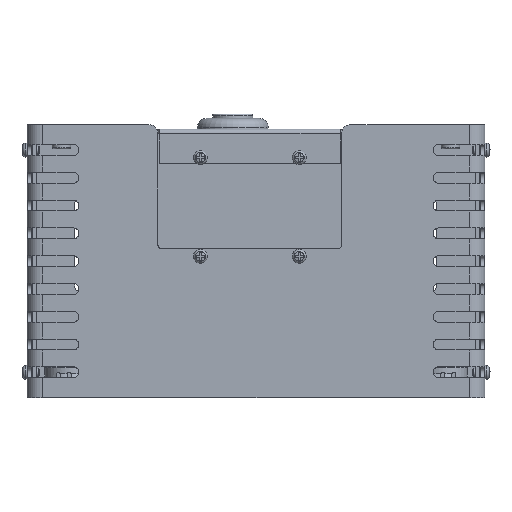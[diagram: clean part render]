
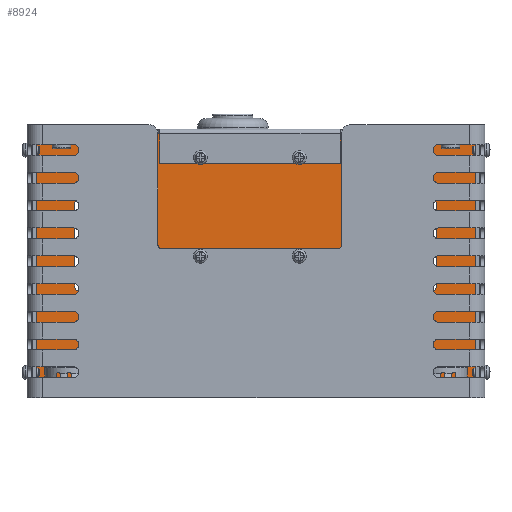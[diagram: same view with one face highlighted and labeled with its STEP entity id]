
A CAD part, top view. The second image highlights one B-rep face of the part: STEP entity #8924.
In plain terms, the highlighted planar face has unit normal (0, 0, 1).
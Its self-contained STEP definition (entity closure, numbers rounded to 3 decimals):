
#287=FACE_BOUND('',#1035,.T.);
#288=FACE_BOUND('',#1036,.T.);
#289=FACE_BOUND('',#1037,.T.);
#290=FACE_BOUND('',#1038,.T.);
#291=FACE_BOUND('',#1039,.T.);
#292=FACE_BOUND('',#1040,.T.);
#293=FACE_BOUND('',#1041,.T.);
#294=FACE_BOUND('',#1042,.T.);
#295=FACE_BOUND('',#1043,.T.);
#296=FACE_BOUND('',#1044,.T.);
#556=FACE_OUTER_BOUND('',#1034,.T.);
#1034=EDGE_LOOP('',(#6019,#6020,#6021,#6022,#6023,#6024,#6025,#6026,#6027,
#6028,#6029,#6030,#6031,#6032,#6033,#6034));
#1035=EDGE_LOOP('',(#6035));
#1036=EDGE_LOOP('',(#6036));
#1037=EDGE_LOOP('',(#6037));
#1038=EDGE_LOOP('',(#6038));
#1039=EDGE_LOOP('',(#6039));
#1040=EDGE_LOOP('',(#6040));
#1041=EDGE_LOOP('',(#6041));
#1042=EDGE_LOOP('',(#6042));
#1043=EDGE_LOOP('',(#6043,#6044,#6045,#6046));
#1044=EDGE_LOOP('',(#6047,#6048,#6049,#6050));
#1578=LINE('',#13209,#2438);
#1579=LINE('',#13212,#2439);
#1583=LINE('',#13227,#2443);
#1586=LINE('',#13233,#2446);
#1591=LINE('',#13246,#2451);
#1592=LINE('',#13249,#2452);
#1596=LINE('',#13264,#2456);
#1621=LINE('',#13329,#2481);
#1622=LINE('',#13331,#2482);
#1623=LINE('',#13332,#2483);
#1624=LINE('',#13334,#2484);
#1625=LINE('',#13335,#2485);
#1626=LINE('',#13337,#2486);
#1627=LINE('',#13338,#2487);
#1628=LINE('',#13340,#2488);
#1629=LINE('',#13341,#2489);
#1630=LINE('',#13360,#2490);
#1631=LINE('',#13364,#2491);
#1632=LINE('',#13368,#2492);
#1633=LINE('',#13372,#2493);
#2438=VECTOR('',#10455,10.);
#2439=VECTOR('',#10458,10.);
#2443=VECTOR('',#10470,10.);
#2446=VECTOR('',#10475,10.);
#2451=VECTOR('',#10486,10.);
#2452=VECTOR('',#10489,10.);
#2456=VECTOR('',#10501,10.);
#2481=VECTOR('',#10558,10.);
#2482=VECTOR('',#10559,10.);
#2483=VECTOR('',#10560,10.);
#2484=VECTOR('',#10561,10.);
#2485=VECTOR('',#10562,10.);
#2486=VECTOR('',#10563,10.);
#2487=VECTOR('',#10564,10.);
#2488=VECTOR('',#10565,10.);
#2489=VECTOR('',#10566,10.);
#2490=VECTOR('',#10583,10.);
#2491=VECTOR('',#10586,10.);
#2492=VECTOR('',#10589,10.);
#2493=VECTOR('',#10592,10.);
#3309=CIRCLE('',#9529,1.088);
#3310=CIRCLE('',#9530,1.088);
#3311=CIRCLE('',#9531,1.088);
#3312=CIRCLE('',#9532,1.088);
#3313=CIRCLE('',#9533,1.4);
#3314=CIRCLE('',#9534,1.4);
#3315=CIRCLE('',#9535,1.4);
#3316=CIRCLE('',#9536,1.4);
#3317=CIRCLE('',#9537,1.75);
#3318=CIRCLE('',#9538,1.75);
#3319=CIRCLE('',#9539,1.75);
#3320=CIRCLE('',#9540,1.75);
#3737=VERTEX_POINT('',#13199);
#3740=VERTEX_POINT('',#13207);
#3741=VERTEX_POINT('',#13211);
#3746=VERTEX_POINT('',#13223);
#3748=VERTEX_POINT('',#13226);
#3750=VERTEX_POINT('',#13232);
#3753=VERTEX_POINT('',#13240);
#3755=VERTEX_POINT('',#13244);
#3756=VERTEX_POINT('',#13248);
#3761=VERTEX_POINT('',#13260);
#3763=VERTEX_POINT('',#13263);
#3787=VERTEX_POINT('',#13328);
#3788=VERTEX_POINT('',#13330);
#3789=VERTEX_POINT('',#13333);
#3790=VERTEX_POINT('',#13336);
#3791=VERTEX_POINT('',#13339);
#3792=VERTEX_POINT('',#13342);
#3793=VERTEX_POINT('',#13344);
#3794=VERTEX_POINT('',#13346);
#3795=VERTEX_POINT('',#13348);
#3796=VERTEX_POINT('',#13350);
#3797=VERTEX_POINT('',#13352);
#3798=VERTEX_POINT('',#13354);
#3799=VERTEX_POINT('',#13356);
#3800=VERTEX_POINT('',#13358);
#3801=VERTEX_POINT('',#13359);
#3802=VERTEX_POINT('',#13361);
#3803=VERTEX_POINT('',#13363);
#3804=VERTEX_POINT('',#13366);
#3805=VERTEX_POINT('',#13367);
#3806=VERTEX_POINT('',#13369);
#3807=VERTEX_POINT('',#13371);
#4600=EDGE_CURVE('',#3740,#3737,#1578,.T.);
#4601=EDGE_CURVE('',#3737,#3741,#1579,.T.);
#4608=EDGE_CURVE('',#3746,#3748,#1583,.T.);
#4611=EDGE_CURVE('',#3750,#3746,#1586,.T.);
#4618=EDGE_CURVE('',#3753,#3755,#1591,.T.);
#4619=EDGE_CURVE('',#3753,#3756,#1592,.T.);
#4626=EDGE_CURVE('',#3761,#3763,#1596,.T.);
#4657=EDGE_CURVE('',#3787,#3755,#1621,.T.);
#4658=EDGE_CURVE('',#3787,#3788,#1622,.T.);
#4659=EDGE_CURVE('',#3748,#3788,#1623,.T.);
#4660=EDGE_CURVE('',#3789,#3750,#1624,.T.);
#4661=EDGE_CURVE('',#3789,#3741,#1625,.T.);
#4662=EDGE_CURVE('',#3740,#3790,#1626,.T.);
#4663=EDGE_CURVE('',#3763,#3790,#1627,.T.);
#4664=EDGE_CURVE('',#3791,#3761,#1628,.T.);
#4665=EDGE_CURVE('',#3791,#3756,#1629,.T.);
#4666=EDGE_CURVE('',#3792,#3792,#3309,.T.);
#4667=EDGE_CURVE('',#3793,#3793,#3310,.T.);
#4668=EDGE_CURVE('',#3794,#3794,#3311,.T.);
#4669=EDGE_CURVE('',#3795,#3795,#3312,.T.);
#4670=EDGE_CURVE('',#3796,#3796,#3313,.T.);
#4671=EDGE_CURVE('',#3797,#3797,#3314,.T.);
#4672=EDGE_CURVE('',#3798,#3798,#3315,.T.);
#4673=EDGE_CURVE('',#3799,#3799,#3316,.T.);
#4674=EDGE_CURVE('',#3800,#3801,#1630,.T.);
#4675=EDGE_CURVE('',#3801,#3802,#3317,.T.);
#4676=EDGE_CURVE('',#3802,#3803,#1631,.T.);
#4677=EDGE_CURVE('',#3803,#3800,#3318,.T.);
#4678=EDGE_CURVE('',#3804,#3805,#1632,.T.);
#4679=EDGE_CURVE('',#3805,#3806,#3319,.T.);
#4680=EDGE_CURVE('',#3806,#3807,#1633,.T.);
#4681=EDGE_CURVE('',#3807,#3804,#3320,.T.);
#6019=ORIENTED_EDGE('',*,*,#4619,.F.);
#6020=ORIENTED_EDGE('',*,*,#4618,.T.);
#6021=ORIENTED_EDGE('',*,*,#4657,.F.);
#6022=ORIENTED_EDGE('',*,*,#4658,.T.);
#6023=ORIENTED_EDGE('',*,*,#4659,.F.);
#6024=ORIENTED_EDGE('',*,*,#4608,.F.);
#6025=ORIENTED_EDGE('',*,*,#4611,.F.);
#6026=ORIENTED_EDGE('',*,*,#4660,.F.);
#6027=ORIENTED_EDGE('',*,*,#4661,.T.);
#6028=ORIENTED_EDGE('',*,*,#4601,.F.);
#6029=ORIENTED_EDGE('',*,*,#4600,.F.);
#6030=ORIENTED_EDGE('',*,*,#4662,.T.);
#6031=ORIENTED_EDGE('',*,*,#4663,.F.);
#6032=ORIENTED_EDGE('',*,*,#4626,.F.);
#6033=ORIENTED_EDGE('',*,*,#4664,.F.);
#6034=ORIENTED_EDGE('',*,*,#4665,.T.);
#6035=ORIENTED_EDGE('',*,*,#4666,.T.);
#6036=ORIENTED_EDGE('',*,*,#4667,.T.);
#6037=ORIENTED_EDGE('',*,*,#4668,.T.);
#6038=ORIENTED_EDGE('',*,*,#4669,.T.);
#6039=ORIENTED_EDGE('',*,*,#4670,.T.);
#6040=ORIENTED_EDGE('',*,*,#4671,.T.);
#6041=ORIENTED_EDGE('',*,*,#4672,.T.);
#6042=ORIENTED_EDGE('',*,*,#4673,.T.);
#6043=ORIENTED_EDGE('',*,*,#4674,.T.);
#6044=ORIENTED_EDGE('',*,*,#4675,.T.);
#6045=ORIENTED_EDGE('',*,*,#4676,.T.);
#6046=ORIENTED_EDGE('',*,*,#4677,.T.);
#6047=ORIENTED_EDGE('',*,*,#4678,.T.);
#6048=ORIENTED_EDGE('',*,*,#4679,.T.);
#6049=ORIENTED_EDGE('',*,*,#4680,.T.);
#6050=ORIENTED_EDGE('',*,*,#4681,.T.);
#8660=PLANE('',#9528);
#8924=ADVANCED_FACE('',(#556,#287,#288,#289,#290,#291,#292,#293,#294,#295,
#296),#8660,.T.);
#9528=AXIS2_PLACEMENT_3D('',#13327,#10556,#10557);
#9529=AXIS2_PLACEMENT_3D('',#13343,#10567,#10568);
#9530=AXIS2_PLACEMENT_3D('',#13345,#10569,#10570);
#9531=AXIS2_PLACEMENT_3D('',#13347,#10571,#10572);
#9532=AXIS2_PLACEMENT_3D('',#13349,#10573,#10574);
#9533=AXIS2_PLACEMENT_3D('',#13351,#10575,#10576);
#9534=AXIS2_PLACEMENT_3D('',#13353,#10577,#10578);
#9535=AXIS2_PLACEMENT_3D('',#13355,#10579,#10580);
#9536=AXIS2_PLACEMENT_3D('',#13357,#10581,#10582);
#9537=AXIS2_PLACEMENT_3D('',#13362,#10584,#10585);
#9538=AXIS2_PLACEMENT_3D('',#13365,#10587,#10588);
#9539=AXIS2_PLACEMENT_3D('',#13370,#10590,#10591);
#9540=AXIS2_PLACEMENT_3D('',#13373,#10593,#10594);
#10455=DIRECTION('',(0.,1.,0.));
#10458=DIRECTION('',(1.,0.,0.));
#10470=DIRECTION('',(-1.,0.,0.));
#10475=DIRECTION('',(0.,-1.,0.));
#10486=DIRECTION('',(1.,0.,0.));
#10489=DIRECTION('',(-1.,0.,0.));
#10501=DIRECTION('',(1.,0.,0.));
#10556=DIRECTION('center_axis',(0.,0.,1.));
#10557=DIRECTION('ref_axis',(1.,0.,0.));
#10558=DIRECTION('',(0.,-1.,0.));
#10559=DIRECTION('',(-1.,0.,0.));
#10560=DIRECTION('',(0.,1.,0.));
#10561=DIRECTION('',(-1.,0.,0.));
#10562=DIRECTION('',(0.,-1.,0.));
#10563=DIRECTION('',(1.,0.,0.));
#10564=DIRECTION('',(0.,-1.,0.));
#10565=DIRECTION('',(1.,0.,0.));
#10566=DIRECTION('',(0.,1.,0.));
#10567=DIRECTION('center_axis',(0.,0.,-1.));
#10568=DIRECTION('ref_axis',(-1.,0.,0.));
#10569=DIRECTION('center_axis',(0.,0.,-1.));
#10570=DIRECTION('ref_axis',(-1.,0.,0.));
#10571=DIRECTION('center_axis',(0.,0.,-1.));
#10572=DIRECTION('ref_axis',(-1.,0.,0.));
#10573=DIRECTION('center_axis',(0.,0.,-1.));
#10574=DIRECTION('ref_axis',(-1.,0.,0.));
#10575=DIRECTION('center_axis',(0.,0.,-1.));
#10576=DIRECTION('ref_axis',(-1.,0.,0.));
#10577=DIRECTION('center_axis',(0.,0.,-1.));
#10578=DIRECTION('ref_axis',(-1.,0.,0.));
#10579=DIRECTION('center_axis',(0.,0.,-1.));
#10580=DIRECTION('ref_axis',(-1.,0.,0.));
#10581=DIRECTION('center_axis',(0.,0.,-1.));
#10582=DIRECTION('ref_axis',(-1.,0.,0.));
#10583=DIRECTION('',(0.,1.,0.));
#10584=DIRECTION('center_axis',(0.,0.,-1.));
#10585=DIRECTION('ref_axis',(1.,0.,0.));
#10586=DIRECTION('',(0.,-1.,0.));
#10587=DIRECTION('center_axis',(0.,0.,-1.));
#10588=DIRECTION('ref_axis',(-1.,0.,0.));
#10589=DIRECTION('',(0.,1.,0.));
#10590=DIRECTION('center_axis',(0.,0.,-1.));
#10591=DIRECTION('ref_axis',(1.,0.,0.));
#10592=DIRECTION('',(0.,-1.,0.));
#10593=DIRECTION('center_axis',(0.,0.,-1.));
#10594=DIRECTION('ref_axis',(-1.,0.,0.));
#13199=CARTESIAN_POINT('',(-72.5,-39.25,1.5));
#13207=CARTESIAN_POINT('',(-72.5,-40.74,1.5));
#13209=CARTESIAN_POINT('',(-72.5,-19.625,1.5));
#13211=CARTESIAN_POINT('',(-70.99,-39.25,1.5));
#13212=CARTESIAN_POINT('',(-70.622,-39.25,1.5));
#13223=CARTESIAN_POINT('',(-72.5,40.24,1.5));
#13226=CARTESIAN_POINT('',(-72.5,40.24,1.5));
#13227=CARTESIAN_POINT('',(-69.5,40.24,1.5));
#13232=CARTESIAN_POINT('',(-72.5,40.25,1.5));
#13233=CARTESIAN_POINT('',(-72.5,0.,1.5));
#13240=CARTESIAN_POINT('',(72.5,40.25,1.5));
#13244=CARTESIAN_POINT('',(72.5,40.25,1.5));
#13246=CARTESIAN_POINT('',(69.5,40.25,1.5));
#13248=CARTESIAN_POINT('',(70.99,40.25,1.5));
#13249=CARTESIAN_POINT('',(70.623,40.25,1.5));
#13260=CARTESIAN_POINT('',(72.5,-39.25,1.5));
#13263=CARTESIAN_POINT('',(72.5,-39.25,1.5));
#13264=CARTESIAN_POINT('',(69.5,-39.25,1.5));
#13327=CARTESIAN_POINT('Origin',(0.,0.,1.5));
#13328=CARTESIAN_POINT('',(72.5,41.74,1.5));
#13329=CARTESIAN_POINT('',(72.5,40.25,1.5));
#13330=CARTESIAN_POINT('',(-72.5,41.74,1.5));
#13331=CARTESIAN_POINT('',(-70.99,41.74,1.5));
#13332=CARTESIAN_POINT('',(-72.5,20.87,1.5));
#13333=CARTESIAN_POINT('',(-70.99,40.25,1.5));
#13334=CARTESIAN_POINT('',(-70.623,40.25,1.5));
#13335=CARTESIAN_POINT('',(-70.99,20.37,1.5));
#13336=CARTESIAN_POINT('',(72.5,-40.74,1.5));
#13337=CARTESIAN_POINT('',(-36.25,-40.74,1.5));
#13338=CARTESIAN_POINT('',(72.5,-20.,1.5));
#13339=CARTESIAN_POINT('',(70.99,-39.25,1.5));
#13340=CARTESIAN_POINT('',(70.623,-39.25,1.5));
#13341=CARTESIAN_POINT('',(70.99,-20.37,1.5));
#13342=CARTESIAN_POINT('',(61.088,30.5,1.5));
#13343=CARTESIAN_POINT('Origin',(60.,30.5,1.5));
#13344=CARTESIAN_POINT('',(-58.912,-29.5,1.5));
#13345=CARTESIAN_POINT('Origin',(-60.,-29.5,1.5));
#13346=CARTESIAN_POINT('',(-58.912,30.5,1.5));
#13347=CARTESIAN_POINT('Origin',(-60.,30.5,1.5));
#13348=CARTESIAN_POINT('',(61.088,-29.5,1.5));
#13349=CARTESIAN_POINT('Origin',(60.,-29.5,1.5));
#13350=CARTESIAN_POINT('',(41.4,34.75,1.5));
#13351=CARTESIAN_POINT('Origin',(40.,34.75,1.5));
#13352=CARTESIAN_POINT('',(41.4,-23.25,1.5));
#13353=CARTESIAN_POINT('Origin',(40.,-23.25,1.5));
#13354=CARTESIAN_POINT('',(-44.6,34.75,1.5));
#13355=CARTESIAN_POINT('Origin',(-46.,34.75,1.5));
#13356=CARTESIAN_POINT('',(-44.6,-23.25,1.5));
#13357=CARTESIAN_POINT('Origin',(-46.,-23.25,1.5));
#13358=CARTESIAN_POINT('',(55.,-7.5,1.5));
#13359=CARTESIAN_POINT('',(55.,19.,1.5));
#13360=CARTESIAN_POINT('',(55.,-1.125,1.5));
#13361=CARTESIAN_POINT('',(58.5,19.,1.5));
#13362=CARTESIAN_POINT('Origin',(56.75,19.,1.5));
#13363=CARTESIAN_POINT('',(58.5,-7.5,1.5));
#13364=CARTESIAN_POINT('',(58.5,12.125,1.5));
#13365=CARTESIAN_POINT('Origin',(56.75,-7.5,1.5));
#13366=CARTESIAN_POINT('',(-58.75,-7.5,1.5));
#13367=CARTESIAN_POINT('',(-58.75,19.,1.5));
#13368=CARTESIAN_POINT('',(-58.75,-1.125,1.5));
#13369=CARTESIAN_POINT('',(-55.25,19.,1.5));
#13370=CARTESIAN_POINT('Origin',(-57.,19.,1.5));
#13371=CARTESIAN_POINT('',(-55.25,-7.5,1.5));
#13372=CARTESIAN_POINT('',(-55.25,12.125,1.5));
#13373=CARTESIAN_POINT('Origin',(-57.,-7.5,1.5));
